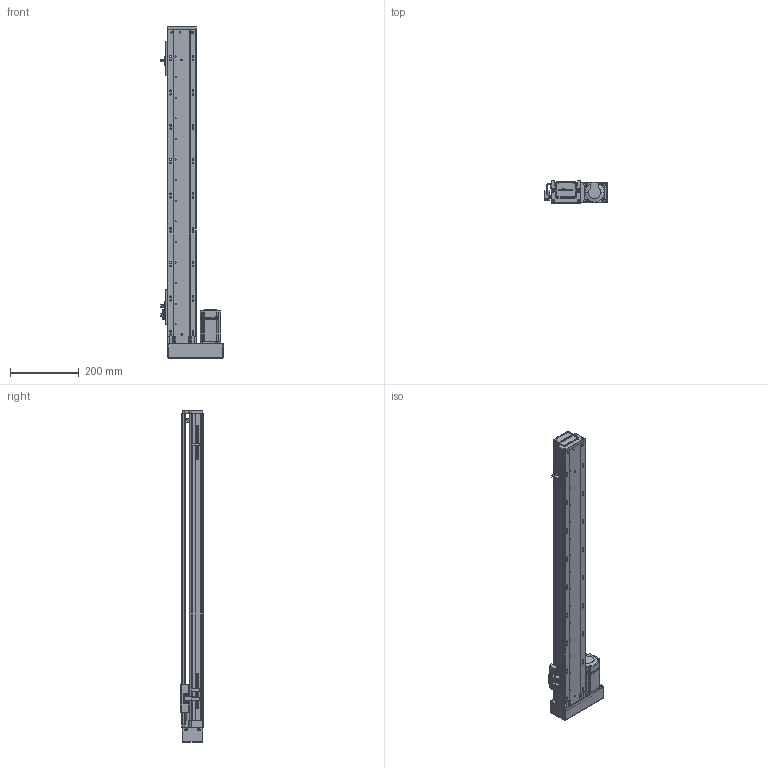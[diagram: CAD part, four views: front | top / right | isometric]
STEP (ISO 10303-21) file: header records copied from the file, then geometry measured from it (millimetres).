
FILE_DESCRIPTION (( 'STEP AP203' ), '1' );
FILE_NAME ('RY80-L1620-300-LK.SLDASM_750.step', '2021-02-20T07:17:13', ( '盈信电脑' ), ( '东莞市道滘镇水果街19号' ), 'SwSTEP 2.0', 'SolidWorks 2012', '' );
FILE_SCHEMA (( 'CONFIG_CONTROL_DESIGN' ));
Length unit declared in the file: millimetre
Products named in the file (15): 滅袉蝶18-24; RY80-L1620-300-LK.SLDASM_750; 覜茼ん672; T倰羞; RY80酘殏俋欶; RY80俋离覜茼え; 1; RY80酘莞萇儂假蚾啣; 侂狟200W萇儂; RY80綴裔啣; RY80转接电机端支撑座; 滅袉蝶18-10; RY80-300蛌諉倰第奻裔啣-LK_750; RY80-300蛌諉倰第菁釱-LK_750; RY80臏賑輸
Assembly tree (17 placements, depth 3):
  RY80-L1620-300-LK.SLDASM_750
    RY80-300蛌諉倰第菁釱-LK_750
    RY80臏賑輸
    RY80-300蛌諉倰第奻裔啣-LK_750
    RY80綴裔啣
    滅袉蝶18-10
    RY80转接电机端支撑座
    侂狟200W萇儂
      1
    RY80酘莞萇儂假蚾啣
    RY80酘殏俋欶
    覜茼ん672  x3
    T倰羞  x2
    RY80俋离覜茼え
    滅袉蝶18-24
Bounding box: 181.7 x 65 x 967 mm (x, y, z)
Volume: 1818049.3 mm3; surface area: 728222.6 mm2
Topology: 16 solids, 16 shells, 2266 faces, 6267 edges, 4061 vertices
Faces by surface type: plane 1195, cylinder 868, cone 141, bspline 62
Entity records: 73065 total; most frequent: CARTESIAN_POINT 19237, ORIENTED_EDGE 11222, DIRECTION 10342, EDGE_CURVE 5611, VERTEX_POINT 3677, AXIS2_PLACEMENT_3D 3482, LINE 3378, VECTOR 3378
